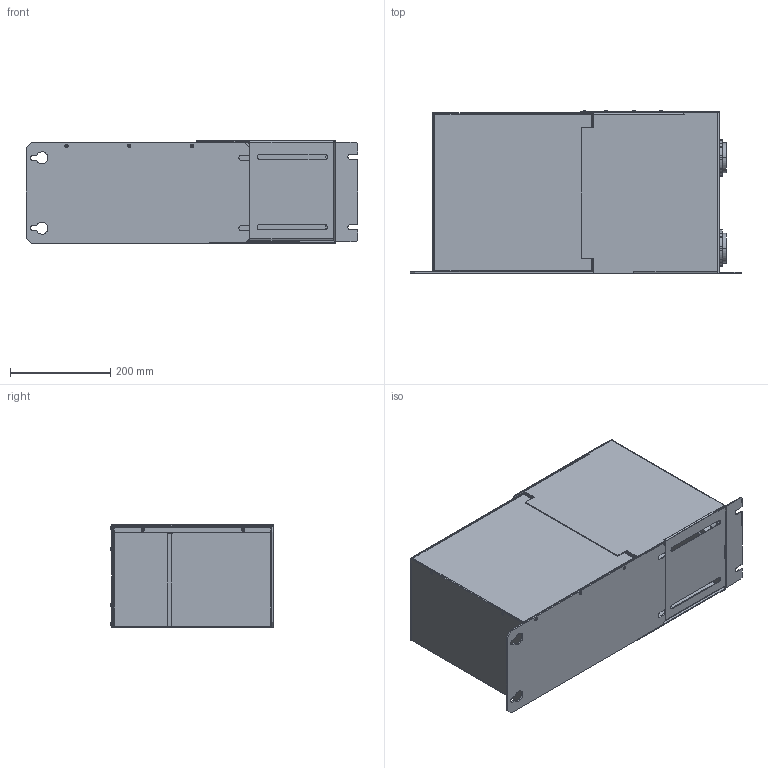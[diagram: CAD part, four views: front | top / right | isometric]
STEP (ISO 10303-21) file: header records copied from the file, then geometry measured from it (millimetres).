
FILE_DESCRIPTION(('STEP AP242'),'1');
FILE_NAME('vw3a4708.stp','2020-09-18T11:26:18',('TraceParts'),('TraceParts S.A.'),'Spatial InterOp 3D',' ',' ');
FILE_SCHEMA(('AP242_MANAGED_MODEL_BASED_3D_ENGINEERING_MIM_LF {1 0 10303 442 1 1 4}'));
Length unit declared in the file: millimetre
Products named in the file (1): vw3a4708_1
Bounding box: 660 x 324.35 x 204 mm (x, y, z)
Volume: 2644683.7 mm3; surface area: 2013325 mm2
Topology: 83 solids, 83 shells, 2189 faces, 5452 edges, 3504 vertices
Faces by surface type: plane 1217, cylinder 674, cone 222, sphere 40, torus 36
Entity records: 68761 total; most frequent: CARTESIAN_POINT 14948, DIRECTION 11472, ORIENTED_EDGE 10904, EDGE_CURVE 5452, AXIS2_PLACEMENT_3D 4204, VERTEX_POINT 3504, LINE 3064, VECTOR 3064
